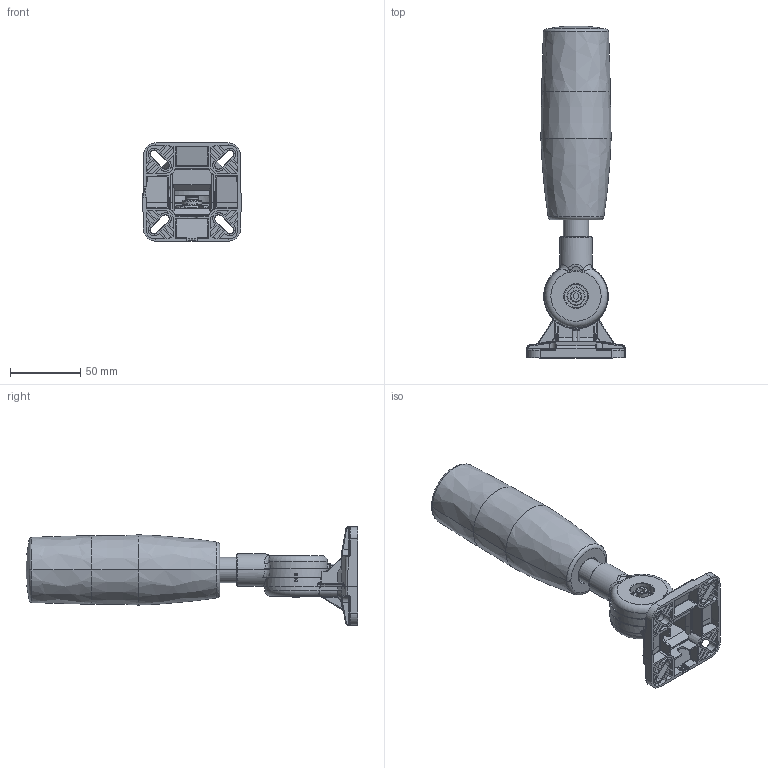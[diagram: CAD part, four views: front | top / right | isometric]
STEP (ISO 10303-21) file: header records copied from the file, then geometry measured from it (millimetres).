
FILE_DESCRIPTION((''),'2;1');
FILE_NAME('M4T-KZ_ASM','2021-07-29T',('ABC'),(''),'CREO PARAMETRIC BY PTC INC, 2015380','CREO PARAMETRIC BY PTC INC, 2015380','');
FILE_SCHEMA(('CONFIG_CONTROL_DESIGN'));
Products named in the file (12): TOP_01_38; BOTTOM_1_14; O-RING_10; AL_TUBE_5; M4-DZ-DUOK_145; M4-ZJT-S-Z_111; DP__1; M5-35__2; M5-LM__1; M4-KZDZ-S-Z_ASM_52_ASM; ASSY-1_ASM_1_ASM; M4T-KZ_ASM
Assembly tree (11 placements, depth 4):
  M4T-KZ_ASM
    ASSY-1_ASM_1_ASM
      TOP_01_38
      BOTTOM_1_14
      O-RING_10
      AL_TUBE_5
      M4-KZDZ-S-Z_ASM_52_ASM
        M4-DZ-DUOK_145
        M4-ZJT-S-Z_111
        DP__1
        M5-35__2
        M5-LM__1
Bounding box: 70 x 236.3 x 70 mm (x, y, z)
Volume: 289729.9 mm3; surface area: 71920.2 mm2
Topology: 9 solids, 9 shells, 1550 faces, 4089 edges, 2553 vertices
Faces by surface type: plane 538, cylinder 435, bspline 194, torus 174, cone 158, sphere 51
Entity records: 71493 total; most frequent: CARTESIAN_POINT 35235, ORIENTED_EDGE 8082, DIRECTION 6853, EDGE_CURVE 4041, AXIS2_PLACEMENT_3D 2606, VERTEX_POINT 2553, VECTOR 1641, LINE 1641
